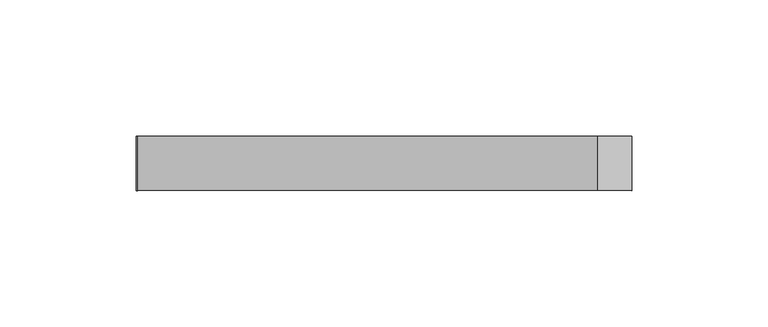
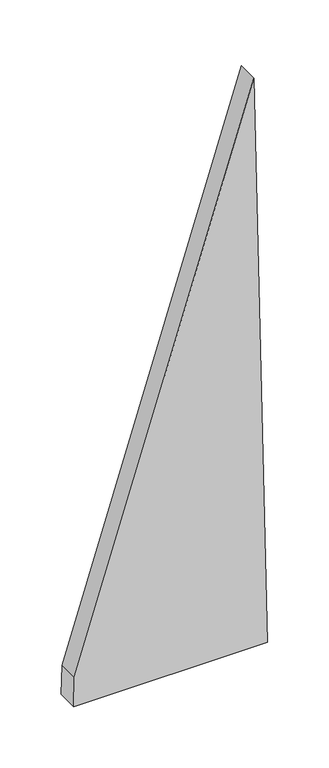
"""IFC4 building model written with IfcOpenShell, lengths in millimetres: plate geometry, 空系统嵌板 : 空."""

from ifc_helpers import new_model, si_unit, frame, origin, place, context, project, spatial, polyline, outline, extrude, source, transform, mapped, element, save


def plate_b5858797(model_context):
    return source(origin(), model_context, "Body", "SweptSolid", [
        extrude(outline(polyline([(0.0, -91.1139863), (0.0, 91.1139863), (564.8976079, 78.2877704), (28.8773223, -90.4962075), (0.0, -91.1139863)])), frame((0.0, -10.0, 0.0), z_axis=(0.0, 1.0, 0.0), x_axis=(0.0, 0.0, 1.0)), (0.0, 0.0, 1.0), 20.0),
    ])


if __name__ == "__main__":
    model = new_model("IFC4")
    model_context = context("Model", 3, world=origin())
    ifc_project = project(units=[si_unit("LENGTHUNIT", "METRE", prefix="MILLI")], contexts=[model_context])
    site = spatial("IfcSite", under=ifc_project)
    building = spatial("IfcBuilding", under=site)
    placement = place(None, origin())
    plate_shape = plate_b5858797(model_context)
    element("IfcPlate", 1, ObjectType="空系统嵌板 : 空", at=placement, inside=building, context=model_context, shape_type="MappedRepresentation", body=[
        mapped(plate_shape, transform((0.0, 0.0, 0.0), x_axis=(1.0, 0.0, 0.0), y_axis=(0.0, 1.0, 0.0), z_axis=(0.0, 0.0, 1.0))),
    ])
    save(model, "model.ifc")
